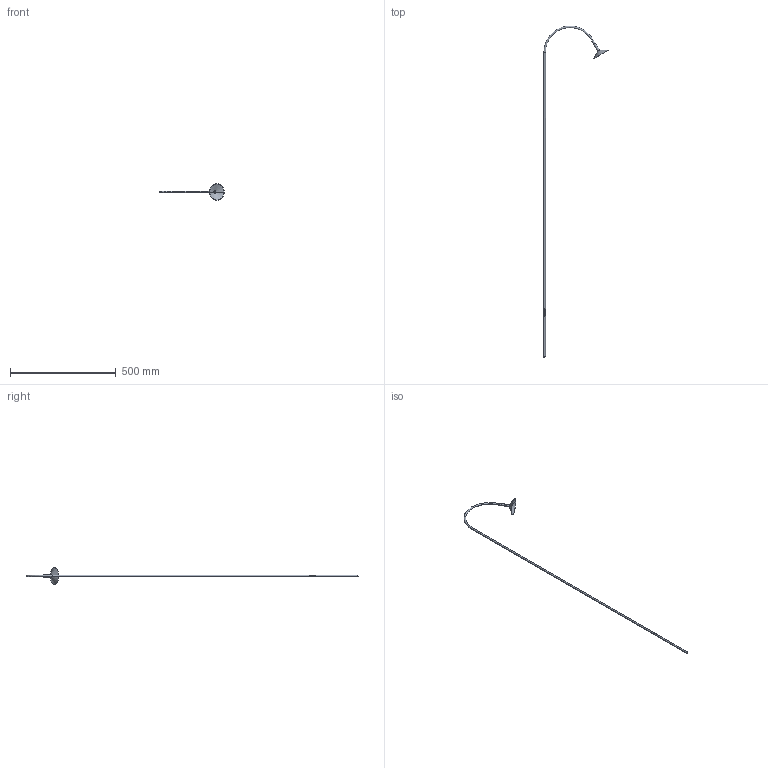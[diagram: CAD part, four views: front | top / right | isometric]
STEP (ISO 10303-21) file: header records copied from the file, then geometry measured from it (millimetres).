
FILE_DESCRIPTION((''),'2;1');
FILE_NAME('CALLA_SW0002','2025-06-24T14:44:53',('Piccioli'),(''),'CREO PARAMETRIC BY PTC INC, 2025010','CREO PARAMETRIC BY PTC INC, 2025010','');
FILE_SCHEMA(('CONFIG_CONTROL_DESIGN'));
Length unit declared in the file: millimetre
Products named in the file (1): CALLA_SW0002
Bounding box: 304.31 x 1570 x 80 mm (x, y, z)
Surface area: 57637.8 mm2 (no closed solid volume)
Topology: 0 solids, 3 shells, 16 faces, 48 edges, 33 vertices
Faces by surface type: cylinder 6, cone 4, plane 2, sphere 2, torus 2
Entity records: 940 total; most frequent: CARTESIAN_POINT 473, DIRECTION 94, ORIENTED_EDGE 74, EDGE_CURVE 46, AXIS2_PLACEMENT_3D 40, VERTEX_POINT 33, CIRCLE 24, EDGE_LOOP 20
